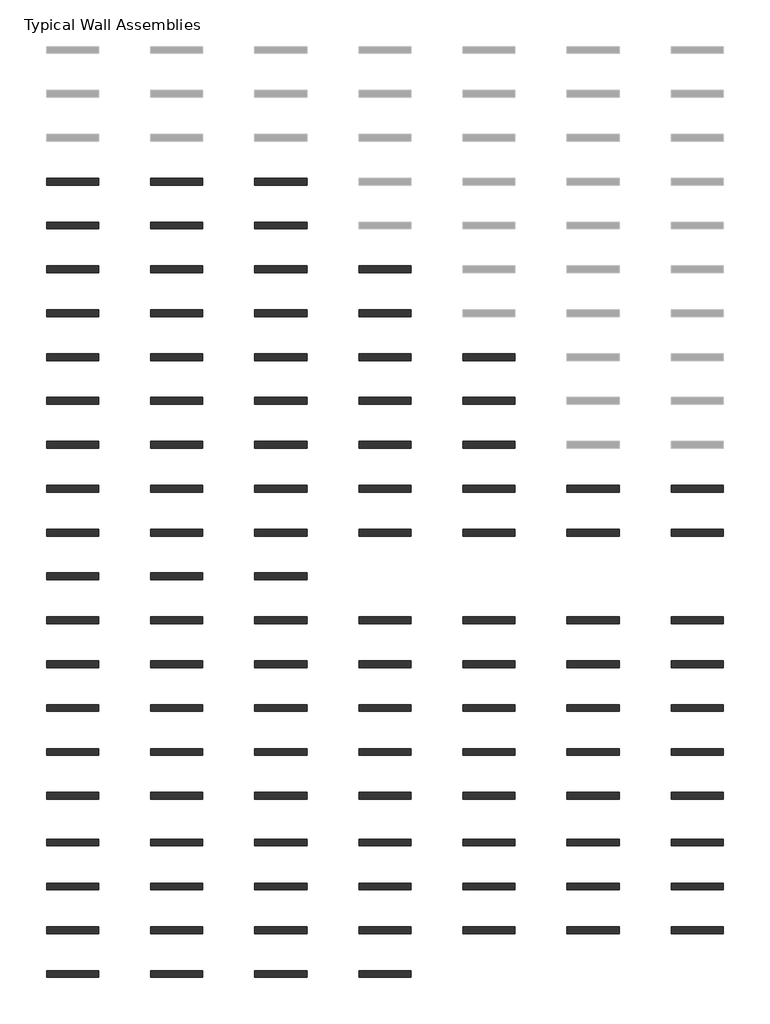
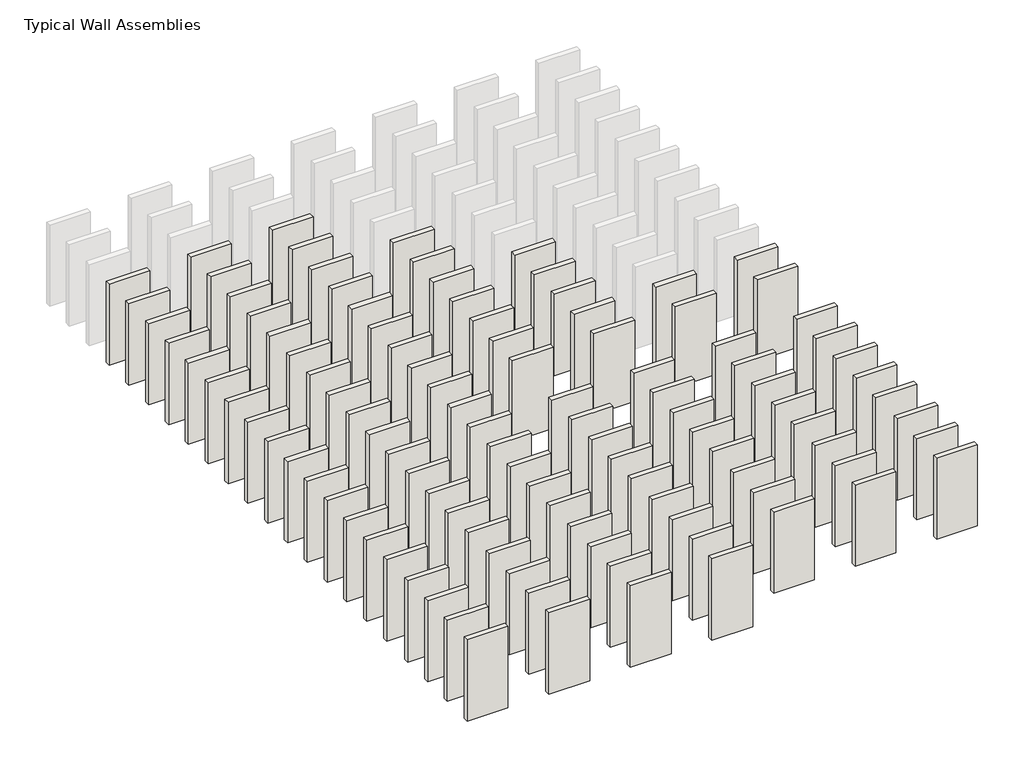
# One storey, part 1 of 2: 106 walls.
"""IFC4 building model written with IfcOpenShell, lengths in millimetres."""

import ifcopenshell
import ifcopenshell.guid

model = None  # the IFC model being written
_history = None  # IfcOwnerHistory: only IFC2X3 demands one
_inside = {}  # id of a spatial element -> (the spatial element, [elements in it])
_under = {}  # id of a project, library or spatial element -> (it, [spatial elements below it])
_declared = {}  # id of a project -> (the project, [libraries it declares])
_typed = {}  # id of a type object -> (the type object, [elements of that type])
_made_of = {}  # id of a material, layer set ... -> (it, [elements and type objects made of it])


def new_model(schema):
    """Start an empty IFC model of exactly this schema.

    Asked for "IFC4X3", IfcOpenShell would pick the latest addendum, in which some entities
    have other attributes; the version numbers below select the first issue.
    IFC2X3 requires an IfcOwnerHistory on every rooted entity: one is made here for all.
    """
    global model, _history
    if schema == "IFC4X3":
        model = ifcopenshell.file(schema_version=(4, 3, 0, 0))
    else:
        model = ifcopenshell.file(schema=schema)
    _inside.clear()
    _under.clear()
    _declared.clear()
    _typed.clear()
    _made_of.clear()
    _history = None
    if model.schema == "IFC2X3":
        org = make("IfcOrganization", Name="unknown")
        user = make(
            "IfcPersonAndOrganization",
            ThePerson=make("IfcPerson", FamilyName="unknown"),
            TheOrganization=org,
        )
        app = make(
            "IfcApplication",
            ApplicationDeveloper=org,
            Version="unknown",
            ApplicationFullName="unknown",
            ApplicationIdentifier="unknown",
        )
        _history = make(
            "IfcOwnerHistory",
            OwningUser=user,
            OwningApplication=app,
            ChangeAction="ADDED",
            CreationDate=0,
        )
    return model


def make(cls, **values):
    """One entity of the class cls with the attributes given. An attribute that is None is left unset."""
    return model.create_entity(
        cls, **{name: value for name, value in values.items() if value is not None}
    )


def rooted(cls, **values):
    """An entity with a GlobalId (a new one), such as an element, a storey or a relation."""
    return make(cls, GlobalId=ifcopenshell.guid.new(), OwnerHistory=_history, **values)


def si_unit(unit_type, name, prefix=None):
    """IfcSIUnit, for example si_unit("LENGTHUNIT", "METRE", prefix="MILLI")."""
    return make("IfcSIUnit", UnitType=unit_type, Prefix=prefix, Name=name)


def assignment(units):
    """IfcUnitAssignment: the units of a project."""
    return None if units is None else make("IfcUnitAssignment", Units=units)


def point(xyz):
    """IfcCartesianPoint."""
    return None if xyz is None else make("IfcCartesianPoint", Coordinates=xyz)


def direction(xyz):
    """IfcDirection."""
    return None if xyz is None else make("IfcDirection", DirectionRatios=xyz)


def frame(location, z_axis=None, x_axis=None):
    """IfcAxis2Placement3D, a coordinate frame: its origin and axes. An axis left out is left unset."""
    return make(
        "IfcAxis2Placement3D",
        Location=point(location),
        Axis=direction(z_axis),
        RefDirection=direction(x_axis),
    )


def origin():
    """The frame at (0, 0, 0) with its axes left unset."""
    return frame((0.0, 0.0, 0.0))


def place(relative_to, where):
    """IfcLocalPlacement: puts the frame where relative to a parent placement (None: the world)."""
    return make(
        "IfcLocalPlacement", PlacementRelTo=relative_to, RelativePlacement=where
    )


def context(
    kind, dimensions, precision=None, world=None, true_north=None, identifier=None
):
    """IfcGeometricRepresentationContext, for example the 3D "Model" context."""
    return make(
        "IfcGeometricRepresentationContext",
        ContextIdentifier=identifier,
        ContextType=kind,
        CoordinateSpaceDimension=dimensions,
        Precision=precision,
        WorldCoordinateSystem=world,
        TrueNorth=true_north,
    )


def project(units=None, contexts=None):
    """IfcProject with its units and contexts."""
    return rooted(
        "IfcProject",
        Name="project",
        RepresentationContexts=contexts,
        UnitsInContext=assignment(units),
    )


def spatial(cls, under=None, at=None, **own):
    """A site, building, storey or space (cls), placed at a placement, below another one or the project."""
    s = rooted(cls, ObjectPlacement=at, **own)
    if under is not None:
        _under.setdefault(under.id(), (under, []))[1].append(s)
    return s


def polyline(points):
    """IfcPolyline through the points."""
    return make("IfcPolyline", Points=[point(p) for p in points])


def outline(outer, holes=None, kind="AREA"):
    """IfcArbitraryClosedProfileDef: a profile drawn as a closed curve; with holes, ...WithVoids."""
    if holes is None:
        return make("IfcArbitraryClosedProfileDef", ProfileType=kind, OuterCurve=outer)
    return make(
        "IfcArbitraryProfileDefWithVoids",
        ProfileType=kind,
        OuterCurve=outer,
        InnerCurves=holes,
    )


def extrude(swept, where, along, depth):
    """IfcExtrudedAreaSolid: the profile swept, set in the frame where, extruded along a direction by depth."""
    return make(
        "IfcExtrudedAreaSolid",
        SweptArea=swept,
        Position=where,
        ExtrudedDirection=direction(along),
        Depth=depth,
    )


def shape(context_of_items, identifier, shape_type, items):
    """IfcShapeRepresentation: the items that make up one representation, for example the "Body"."""
    return make(
        "IfcShapeRepresentation",
        ContextOfItems=context_of_items,
        RepresentationIdentifier=identifier,
        RepresentationType=shape_type,
        Items=items,
    )


def made_of(thing, what):
    """Note that an element or type object is made of a material, layer set ...; save() writes the relation."""
    if what is not None:
        _made_of.setdefault(what.id(), (what, []))[1].append(thing)
    return thing


def element(
    cls,
    number,
    at=None,
    inside=None,
    cuts=None,
    type_object=None,
    material=None,
    context=None,
    identifier="Body",
    shape_type=None,
    held_by="IfcProductDefinitionShape",
    body=None,
    shapes=None,
    **own,
):
    """One element of the class cls, such as IfcWall. Its Tag is "e" and its number.

    at: its placement. inside: the storey or other place that contains it. cuts: it is an
    opening in that element (IfcRelVoidsElement). A single representation is given by context,
    identifier, shape_type and body (its items); several are given by shapes. held_by: the class
    of the entity that holds the representations. save() writes the other relations.
    """
    e = rooted(cls, Tag="e%d" % number, ObjectPlacement=at, **own)
    if body is not None:
        shapes = [shape(context, identifier, shape_type, body)]
    if shapes is not None:
        e.Representation = make(held_by, Representations=shapes)
    if inside is not None:
        _inside.setdefault(inside.id(), (inside, []))[1].append(e)
    if cuts is not None:
        rooted(
            "IfcRelVoidsElement", RelatingBuildingElement=cuts, RelatedOpeningElement=e
        )
    if type_object is not None:
        _typed.setdefault(type_object.id(), (type_object, []))[1].append(e)
    return made_of(e, material)


def aggregate(whole, parts):
    """IfcRelAggregates: a whole, such as a stair, and the parts it consists of."""
    return rooted("IfcRelAggregates", RelatingObject=whole, RelatedObjects=parts)


def save(model, path):
    """Write the relations noted so far, then the file.

    IfcRelAggregates (storeys below a building ...), IfcRelContainedInSpatialStructure (elements
    in a storey), IfcRelDefinesByType, IfcRelAssociatesMaterial and IfcRelDeclares: one each for
    every whole, place, type object, material and project.
    """
    for whole, parts in _under.values():
        aggregate(whole, parts)
    for where, things in _inside.values():
        rooted(
            "IfcRelContainedInSpatialStructure",
            RelatedElements=things,
            RelatingStructure=where,
        )
    for kind, things in _typed.values():
        rooted("IfcRelDefinesByType", RelatedObjects=things, RelatingType=kind)
    for what, things in _made_of.values():
        rooted("IfcRelAssociatesMaterial", RelatedObjects=things, RelatingMaterial=what)
    for by, libraries in _declared.values():
        rooted("IfcRelDeclares", RelatingContext=by, RelatedDefinitions=libraries)
    model.write(path)


model = new_model("IFC4")

# Units and contexts
model_context = context("Model", 3, world=origin())
ifc_project = project(units=[si_unit("LENGTHUNIT", "METRE", prefix="MILLI")], contexts=[model_context])

# Site, building, storey
site = spatial("IfcSite", under=ifc_project)
building = spatial("IfcBuilding", under=site)
storey = spatial("IfcBuildingStorey", under=building, Name="Typical Wall Assemblies", Elevation=6096.0)

# Walls
placement = place(None, origin())
element("IfcWall", 1, ObjectType="Resysta - Cladding-3-Channel-Thin_3/4inx2.75in_Sage", at=placement, inside=storey, context=model_context, shape_type="SweptSolid", body=[
    extrude(outline(polyline([(-19450.9165719, -187.0230344), (-20898.7250935, -187.0230344), (-20898.7250935, 5.0644687), (-19450.9165719, 5.0644687), (-19450.9165719, -187.0230344)])), frame((0.0, 0.0, 6096.0), z_axis=(0.0, 0.0, 1.0), x_axis=(1.0, 0.0, 0.0)), (0.0, 0.0, 1.0), 3048.0),
])
element("IfcWall", 2, ObjectType="Resysta - Cladding-3-Channel-Thin_3/4inx2.75in_Siam", at=placement, inside=storey, context=model_context, shape_type="SweptSolid", body=[
    extrude(outline(polyline([(-16555.2995286, -187.0230344), (-18003.1080502, -187.0230344), (-18003.1080502, 5.0644687), (-16555.2995286, 5.0644687), (-16555.2995286, -187.0230344)])), frame((0.0, 0.0, 6096.0), z_axis=(0.0, 0.0, 1.0), x_axis=(1.0, 0.0, 0.0)), (0.0, 0.0, 1.0), 3048.0),
])
element("IfcWall", 3, ObjectType="Resysta - Cladding-3-Channel-Thin_3/4inx2.75in_Teracotta", at=placement, inside=storey, context=model_context, shape_type="SweptSolid", body=[
    extrude(outline(polyline([(-13659.6824853, -187.0230344), (-15107.4910069, -187.0230344), (-15107.4910069, 5.0644687), (-13659.6824853, 5.0644687), (-13659.6824853, -187.0230344)])), frame((0.0, 0.0, 6096.0), z_axis=(0.0, 0.0, 1.0), x_axis=(1.0, 0.0, 0.0)), (0.0, 0.0, 1.0), 3048.0),
])
element("IfcWall", 4, ObjectType="Resysta - Cladding-4-Channel-Thin_3/4inx5.5in_Anthrazit", at=placement, inside=storey, context=model_context, shape_type="SweptSolid", body=[
    extrude(outline(polyline([(-19450.9165719, -1406.2230344), (-20898.7250935, -1406.2230344), (-20898.7250935, -1214.1355313), (-19450.9165719, -1214.1355313), (-19450.9165719, -1406.2230344)])), frame((0.0, 0.0, 6096.0), z_axis=(0.0, 0.0, 1.0), x_axis=(1.0, 0.0, 0.0)), (0.0, 0.0, 1.0), 3048.0),
])
element("IfcWall", 5, ObjectType="Resysta - Cladding-4-Channel-Thin_3/4inx5.5in_Apple-Green", at=placement, inside=storey, context=model_context, shape_type="SweptSolid", body=[
    extrude(outline(polyline([(-16555.2995286, -1406.2230344), (-18003.1080502, -1406.2230344), (-18003.1080502, -1214.1355313), (-16555.2995286, -1214.1355313), (-16555.2995286, -1406.2230344)])), frame((0.0, 0.0, 6096.0), z_axis=(0.0, 0.0, 1.0), x_axis=(1.0, 0.0, 0.0)), (0.0, 0.0, 1.0), 3048.0),
])
element("IfcWall", 6, ObjectType="Resysta - Cladding-4-Channel-Thin_3/4inx5.5in_Black", at=placement, inside=storey, context=model_context, shape_type="SweptSolid", body=[
    extrude(outline(polyline([(-13659.6824853, -1406.2230344), (-15107.4910069, -1406.2230344), (-15107.4910069, -1214.1355313), (-13659.6824853, -1214.1355313), (-13659.6824853, -1406.2230344)])), frame((0.0, 0.0, 6096.0), z_axis=(0.0, 0.0, 1.0), x_axis=(1.0, 0.0, 0.0)), (0.0, 0.0, 1.0), 3048.0),
])
element("IfcWall", 7, ObjectType="Resysta - Cladding-4-Channel-Thin_3/4inx5.5in_Concrete-Grey", at=placement, inside=storey, context=model_context, shape_type="SweptSolid", body=[
    extrude(outline(polyline([(-19450.9165719, -2625.4230344), (-20898.7250935, -2625.4230344), (-20898.7250935, -2433.3355313), (-19450.9165719, -2433.3355313), (-19450.9165719, -2625.4230344)])), frame((0.0, 0.0, 6096.0), z_axis=(0.0, 0.0, 1.0), x_axis=(1.0, 0.0, 0.0)), (0.0, 0.0, 1.0), 3048.0),
])
element("IfcWall", 8, ObjectType="Resysta - Cladding-4-Channel-Thin_3/4inx5.5in_Dark-Burma", at=placement, inside=storey, context=model_context, shape_type="SweptSolid", body=[
    extrude(outline(polyline([(-16555.2995286, -2625.4230344), (-18003.1080502, -2625.4230344), (-18003.1080502, -2433.3355313), (-16555.2995286, -2433.3355313), (-16555.2995286, -2625.4230344)])), frame((0.0, 0.0, 6096.0), z_axis=(0.0, 0.0, 1.0), x_axis=(1.0, 0.0, 0.0)), (0.0, 0.0, 1.0), 3048.0),
])
element("IfcWall", 9, ObjectType="Resysta - Cladding-4-Channel-Thin_3/4inx5.5in_Dark-Grey", at=placement, inside=storey, context=model_context, shape_type="SweptSolid", body=[
    extrude(outline(polyline([(-13659.6824853, -2625.4230344), (-15107.4910069, -2625.4230344), (-15107.4910069, -2433.3355313), (-13659.6824853, -2433.3355313), (-13659.6824853, -2625.4230344)])), frame((0.0, 0.0, 6096.0), z_axis=(0.0, 0.0, 1.0), x_axis=(1.0, 0.0, 0.0)), (0.0, 0.0, 1.0), 3048.0),
])
element("IfcWall", 10, ObjectType="Resysta - Cladding-4-Channel-Thin_3/4inx5.5in_Dark-Siam", at=placement, inside=storey, context=model_context, shape_type="SweptSolid", body=[
    extrude(outline(polyline([(-10764.065442, -2625.4230344), (-12211.8739636, -2625.4230344), (-12211.8739636, -2433.3355313), (-10764.065442, -2433.3355313), (-10764.065442, -2625.4230344)])), frame((0.0, 0.0, 6096.0), z_axis=(0.0, 0.0, 1.0), x_axis=(1.0, 0.0, 0.0)), (0.0, 0.0, 1.0), 3048.0),
])
element("IfcWall", 11, ObjectType="Resysta - Cladding-4-Channel-Thin_3/4inx5.5in_Lavender", at=placement, inside=storey, context=model_context, shape_type="SweptSolid", body=[
    extrude(outline(polyline([(-19450.9165719, -3844.6230344), (-20898.7250935, -3844.6230344), (-20898.7250935, -3652.5355313), (-19450.9165719, -3652.5355313), (-19450.9165719, -3844.6230344)])), frame((0.0, 0.0, 6096.0), z_axis=(0.0, 0.0, 1.0), x_axis=(1.0, 0.0, 0.0)), (0.0, 0.0, 1.0), 3048.0),
])
element("IfcWall", 12, ObjectType="Resysta - Cladding-4-Channel-Thin_3/4inx5.5in_Light-Taupe", at=placement, inside=storey, context=model_context, shape_type="SweptSolid", body=[
    extrude(outline(polyline([(-16555.2995286, -3844.6230344), (-18003.1080502, -3844.6230344), (-18003.1080502, -3652.5355313), (-16555.2995286, -3652.5355313), (-16555.2995286, -3844.6230344)])), frame((0.0, 0.0, 6096.0), z_axis=(0.0, 0.0, 1.0), x_axis=(1.0, 0.0, 0.0)), (0.0, 0.0, 1.0), 3048.0),
])
element("IfcWall", 13, ObjectType="Resysta - Cladding-4-Channel-Thin_3/4inx5.5in_Mahogany", at=placement, inside=storey, context=model_context, shape_type="SweptSolid", body=[
    extrude(outline(polyline([(-13659.6824853, -3844.6230344), (-15107.4910069, -3844.6230344), (-15107.4910069, -3652.5355313), (-13659.6824853, -3652.5355313), (-13659.6824853, -3844.6230344)])), frame((0.0, 0.0, 6096.0), z_axis=(0.0, 0.0, 1.0), x_axis=(1.0, 0.0, 0.0)), (0.0, 0.0, 1.0), 3048.0),
])
element("IfcWall", 14, ObjectType="Resysta - Cladding-4-Channel-Thin_3/4inx5.5in_Moss-Green", at=placement, inside=storey, context=model_context, shape_type="SweptSolid", body=[
    extrude(outline(polyline([(-10764.065442, -3844.6230344), (-12211.8739636, -3844.6230344), (-12211.8739636, -3652.5355313), (-10764.065442, -3652.5355313), (-10764.065442, -3844.6230344)])), frame((0.0, 0.0, 6096.0), z_axis=(0.0, 0.0, 1.0), x_axis=(1.0, 0.0, 0.0)), (0.0, 0.0, 1.0), 3048.0),
])
element("IfcWall", 15, ObjectType="Resysta - Cladding-4-Channel-Thin_3/4inx5.5in_Red", at=placement, inside=storey, context=model_context, shape_type="SweptSolid", body=[
    extrude(outline(polyline([(-19450.9165719, -5063.8230344), (-20898.7250935, -5063.8230344), (-20898.7250935, -4871.7355313), (-19450.9165719, -4871.7355313), (-19450.9165719, -5063.8230344)])), frame((0.0, 0.0, 6096.0), z_axis=(0.0, 0.0, 1.0), x_axis=(1.0, 0.0, 0.0)), (0.0, 0.0, 1.0), 3048.0),
])
element("IfcWall", 16, ObjectType="Resysta - Cladding-4-Channel-Thin_3/4inx5.5in_Rust", at=placement, inside=storey, context=model_context, shape_type="SweptSolid", body=[
    extrude(outline(polyline([(-16555.2995286, -5063.8230344), (-18003.1080502, -5063.8230344), (-18003.1080502, -4871.7355313), (-16555.2995286, -4871.7355313), (-16555.2995286, -5063.8230344)])), frame((0.0, 0.0, 6096.0), z_axis=(0.0, 0.0, 1.0), x_axis=(1.0, 0.0, 0.0)), (0.0, 0.0, 1.0), 3048.0),
])
element("IfcWall", 17, ObjectType="Resysta - Cladding-4-Channel-Thin_3/4inx5.5in_Sage", at=placement, inside=storey, context=model_context, shape_type="SweptSolid", body=[
    extrude(outline(polyline([(-13659.6824853, -5063.8230344), (-15107.4910069, -5063.8230344), (-15107.4910069, -4871.7355313), (-13659.6824853, -4871.7355313), (-13659.6824853, -5063.8230344)])), frame((0.0, 0.0, 6096.0), z_axis=(0.0, 0.0, 1.0), x_axis=(1.0, 0.0, 0.0)), (0.0, 0.0, 1.0), 3048.0),
])
element("IfcWall", 18, ObjectType="Resysta - Cladding-4-Channel-Thin_3/4inx5.5in_Siam", at=placement, inside=storey, context=model_context, shape_type="SweptSolid", body=[
    extrude(outline(polyline([(-10764.065442, -5063.8230344), (-12211.8739636, -5063.8230344), (-12211.8739636, -4871.7355313), (-10764.065442, -4871.7355313), (-10764.065442, -5063.8230344)])), frame((0.0, 0.0, 6096.0), z_axis=(0.0, 0.0, 1.0), x_axis=(1.0, 0.0, 0.0)), (0.0, 0.0, 1.0), 3048.0),
])
element("IfcWall", 19, ObjectType="Resysta - Cladding-4-Channel-Thin_3/4inx5.5in_Teracotta", at=placement, inside=storey, context=model_context, shape_type="SweptSolid", body=[
    extrude(outline(polyline([(-7868.4483987, -5063.8230344), (-9316.2569203, -5063.8230344), (-9316.2569203, -4871.7355313), (-7868.4483987, -4871.7355313), (-7868.4483987, -5063.8230344)])), frame((0.0, 0.0, 6096.0), z_axis=(0.0, 0.0, 1.0), x_axis=(1.0, 0.0, 0.0)), (0.0, 0.0, 1.0), 3048.0),
])
element("IfcWall", 20, ObjectType="Resysta - Cladding-4-Channel-Thin_3/4inx5.5in_Yellow-Teak", at=placement, inside=storey, context=model_context, shape_type="SweptSolid", body=[
    extrude(outline(polyline([(-19450.9165719, -6283.0230344), (-20898.7250935, -6283.0230344), (-20898.7250935, -6090.9355313), (-19450.9165719, -6090.9355313), (-19450.9165719, -6283.0230344)])), frame((0.0, 0.0, 6096.0), z_axis=(0.0, 0.0, 1.0), x_axis=(1.0, 0.0, 0.0)), (0.0, 0.0, 1.0), 3048.0),
])
element("IfcWall", 21, ObjectType="Resysta - Cladding-4-Channel-Thin_3/4inx7.75in_Aged-Teak", at=placement, inside=storey, context=model_context, shape_type="SweptSolid", body=[
    extrude(outline(polyline([(-16555.2995286, -6283.0230344), (-18003.1080502, -6283.0230344), (-18003.1080502, -6090.9355313), (-16555.2995286, -6090.9355313), (-16555.2995286, -6283.0230344)])), frame((0.0, 0.0, 6096.0), z_axis=(0.0, 0.0, 1.0), x_axis=(1.0, 0.0, 0.0)), (0.0, 0.0, 1.0), 3048.0),
])
element("IfcWall", 22, ObjectType="Resysta - Cladding-4-Channel-Thin_3/4inx7.75in_Anthrazit", at=placement, inside=storey, context=model_context, shape_type="SweptSolid", body=[
    extrude(outline(polyline([(-13659.6824853, -6283.0230344), (-15107.4910069, -6283.0230344), (-15107.4910069, -6090.9355313), (-13659.6824853, -6090.9355313), (-13659.6824853, -6283.0230344)])), frame((0.0, 0.0, 6096.0), z_axis=(0.0, 0.0, 1.0), x_axis=(1.0, 0.0, 0.0)), (0.0, 0.0, 1.0), 3048.0),
])
element("IfcWall", 23, ObjectType="Resysta - Cladding-4-Channel-Thin_3/4inx7.75in_Apple-Green", at=placement, inside=storey, context=model_context, shape_type="SweptSolid", body=[
    extrude(outline(polyline([(-10764.065442, -6283.0230344), (-12211.8739636, -6283.0230344), (-12211.8739636, -6090.9355313), (-10764.065442, -6090.9355313), (-10764.065442, -6283.0230344)])), frame((0.0, 0.0, 6096.0), z_axis=(0.0, 0.0, 1.0), x_axis=(1.0, 0.0, 0.0)), (0.0, 0.0, 1.0), 3048.0),
])
element("IfcWall", 24, ObjectType="Resysta - Cladding-4-Channel-Thin_3/4inx7.75in_Black", at=placement, inside=storey, context=model_context, shape_type="SweptSolid", body=[
    extrude(outline(polyline([(-7868.4483987, -6283.0230344), (-9316.2569203, -6283.0230344), (-9316.2569203, -6090.9355313), (-7868.4483987, -6090.9355313), (-7868.4483987, -6283.0230344)])), frame((0.0, 0.0, 6096.0), z_axis=(0.0, 0.0, 1.0), x_axis=(1.0, 0.0, 0.0)), (0.0, 0.0, 1.0), 3048.0),
])
element("IfcWall", 25, ObjectType="Resysta - Cladding-4-Channel-Thin_3/4inx7.75in_Burma", at=placement, inside=storey, context=model_context, shape_type="SweptSolid", body=[
    extrude(outline(polyline([(-19450.9165719, -7502.2230344), (-20898.7250935, -7502.2230344), (-20898.7250935, -7310.1355313), (-19450.9165719, -7310.1355313), (-19450.9165719, -7502.2230344)])), frame((0.0, 0.0, 6096.0), z_axis=(0.0, 0.0, 1.0), x_axis=(1.0, 0.0, 0.0)), (0.0, 0.0, 1.0), 3048.0),
])
element("IfcWall", 26, ObjectType="Resysta - Cladding-4-Channel-Thin_3/4inx7.75in_Cape-Cod", at=placement, inside=storey, context=model_context, shape_type="SweptSolid", body=[
    extrude(outline(polyline([(-16555.2995286, -7502.2230344), (-18003.1080502, -7502.2230344), (-18003.1080502, -7310.1355313), (-16555.2995286, -7310.1355313), (-16555.2995286, -7502.2230344)])), frame((0.0, 0.0, 6096.0), z_axis=(0.0, 0.0, 1.0), x_axis=(1.0, 0.0, 0.0)), (0.0, 0.0, 1.0), 3048.0),
])
element("IfcWall", 27, ObjectType="Resysta - Cladding-4-Channel-Thin_3/4inx7.75in_Concrete-Grey", at=placement, inside=storey, context=model_context, shape_type="SweptSolid", body=[
    extrude(outline(polyline([(-13659.6824853, -7502.2230344), (-15107.4910069, -7502.2230344), (-15107.4910069, -7310.1355313), (-13659.6824853, -7310.1355313), (-13659.6824853, -7502.2230344)])), frame((0.0, 0.0, 6096.0), z_axis=(0.0, 0.0, 1.0), x_axis=(1.0, 0.0, 0.0)), (0.0, 0.0, 1.0), 3048.0),
])
element("IfcWall", 28, ObjectType="Resysta - Cladding-4-Channel-Thin_3/4inx7.75in_Dark-Burma", at=placement, inside=storey, context=model_context, shape_type="SweptSolid", body=[
    extrude(outline(polyline([(-10764.065442, -7502.2230344), (-12211.8739636, -7502.2230344), (-12211.8739636, -7310.1355313), (-10764.065442, -7310.1355313), (-10764.065442, -7502.2230344)])), frame((0.0, 0.0, 6096.0), z_axis=(0.0, 0.0, 1.0), x_axis=(1.0, 0.0, 0.0)), (0.0, 0.0, 1.0), 3048.0),
])
element("IfcWall", 29, ObjectType="Resysta - Cladding-4-Channel-Thin_3/4inx7.75in_Dark-Grey", at=placement, inside=storey, context=model_context, shape_type="SweptSolid", body=[
    extrude(outline(polyline([(-7868.4483987, -7502.2230344), (-9316.2569203, -7502.2230344), (-9316.2569203, -7310.1355313), (-7868.4483987, -7310.1355313), (-7868.4483987, -7502.2230344)])), frame((0.0, 0.0, 6096.0), z_axis=(0.0, 0.0, 1.0), x_axis=(1.0, 0.0, 0.0)), (0.0, 0.0, 1.0), 3048.0),
])
element("IfcWall", 30, ObjectType="Resysta - Cladding-4-Channel-Thin_3/4inx7.75in_Green/Blue", at=placement, inside=storey, context=model_context, shape_type="SweptSolid", body=[
    extrude(outline(polyline([(-19450.9165719, -8721.4230344), (-20898.7250935, -8721.4230344), (-20898.7250935, -8529.3355313), (-19450.9165719, -8529.3355313), (-19450.9165719, -8721.4230344)])), frame((0.0, 0.0, 6096.0), z_axis=(0.0, 0.0, 1.0), x_axis=(1.0, 0.0, 0.0)), (0.0, 0.0, 1.0), 3048.0),
])
element("IfcWall", 31, ObjectType="Resysta - Cladding-4-Channel-Thin_3/4inx7.75in_Java-Teak", at=placement, inside=storey, context=model_context, shape_type="SweptSolid", body=[
    extrude(outline(polyline([(-16555.2995286, -8721.4230344), (-18003.1080502, -8721.4230344), (-18003.1080502, -8529.3355313), (-16555.2995286, -8529.3355313), (-16555.2995286, -8721.4230344)])), frame((0.0, 0.0, 6096.0), z_axis=(0.0, 0.0, 1.0), x_axis=(1.0, 0.0, 0.0)), (0.0, 0.0, 1.0), 3048.0),
])
element("IfcWall", 32, ObjectType="Resysta - Cladding-4-Channel-Thin_3/4inx7.75in_Lavender", at=placement, inside=storey, context=model_context, shape_type="SweptSolid", body=[
    extrude(outline(polyline([(-13659.6824853, -8721.4230344), (-15107.4910069, -8721.4230344), (-15107.4910069, -8529.3355313), (-13659.6824853, -8529.3355313), (-13659.6824853, -8721.4230344)])), frame((0.0, 0.0, 6096.0), z_axis=(0.0, 0.0, 1.0), x_axis=(1.0, 0.0, 0.0)), (0.0, 0.0, 1.0), 3048.0),
])
element("IfcWall", 33, ObjectType="Resysta - Cladding-4-Channel-Thin_3/4inx7.75in_Light-Taupe", at=placement, inside=storey, context=model_context, shape_type="SweptSolid", body=[
    extrude(outline(polyline([(-10764.065442, -8721.4230344), (-12211.8739636, -8721.4230344), (-12211.8739636, -8529.3355313), (-10764.065442, -8529.3355313), (-10764.065442, -8721.4230344)])), frame((0.0, 0.0, 6096.0), z_axis=(0.0, 0.0, 1.0), x_axis=(1.0, 0.0, 0.0)), (0.0, 0.0, 1.0), 3048.0),
])
element("IfcWall", 34, ObjectType="Resysta - Cladding-4-Channel-Thin_3/4inx7.75in_Mahogany", at=placement, inside=storey, context=model_context, shape_type="SweptSolid", body=[
    extrude(outline(polyline([(-7868.4483987, -8721.4230344), (-9316.2569203, -8721.4230344), (-9316.2569203, -8529.3355313), (-7868.4483987, -8529.3355313), (-7868.4483987, -8721.4230344)])), frame((0.0, 0.0, 6096.0), z_axis=(0.0, 0.0, 1.0), x_axis=(1.0, 0.0, 0.0)), (0.0, 0.0, 1.0), 3048.0),
])
element("IfcWall", 35, ObjectType="Resysta - Cladding-4-Channel-Thin_3/4inx7.75in_Moss-Green", at=placement, inside=storey, context=model_context, shape_type="SweptSolid", body=[
    extrude(outline(polyline([(-4972.8313554, -8721.4230344), (-6420.639877, -8721.4230344), (-6420.639877, -8529.3355313), (-4972.8313554, -8529.3355313), (-4972.8313554, -8721.4230344)])), frame((0.0, 0.0, 6096.0), z_axis=(0.0, 0.0, 1.0), x_axis=(1.0, 0.0, 0.0)), (0.0, 0.0, 1.0), 3048.0),
])
element("IfcWall", 36, ObjectType="Resysta - Cladding-4-Channel-Thin_3/4inx7.75in_Mustard-Green", at=placement, inside=storey, context=model_context, shape_type="SweptSolid", body=[
    extrude(outline(polyline([(-2077.2143121, -8721.4230344), (-3525.0228337, -8721.4230344), (-3525.0228337, -8529.3355313), (-2077.2143121, -8529.3355313), (-2077.2143121, -8721.4230344)])), frame((0.0, 0.0, 6096.0), z_axis=(0.0, 0.0, 1.0), x_axis=(1.0, 0.0, 0.0)), (0.0, 0.0, 1.0), 3048.0),
])
element("IfcWall", 37, ObjectType="Resysta - Cladding-4-Channel-Thin_3/4inx7.75in_Pale-Golden", at=placement, inside=storey, context=model_context, shape_type="SweptSolid", body=[
    extrude(outline(polyline([(-19450.9165719, -9940.6230344), (-20898.7250935, -9940.6230344), (-20898.7250935, -9748.5355313), (-19450.9165719, -9748.5355313), (-19450.9165719, -9940.6230344)])), frame((0.0, 0.0, 6096.0), z_axis=(0.0, 0.0, 1.0), x_axis=(1.0, 0.0, 0.0)), (0.0, 0.0, 1.0), 3048.0),
])
element("IfcWall", 38, ObjectType="Resysta - Cladding-4-Channel-Thin_3/4inx7.75in_Palisander", at=placement, inside=storey, context=model_context, shape_type="SweptSolid", body=[
    extrude(outline(polyline([(-16555.2995286, -9940.6230344), (-18003.1080502, -9940.6230344), (-18003.1080502, -9748.5355313), (-16555.2995286, -9748.5355313), (-16555.2995286, -9940.6230344)])), frame((0.0, 0.0, 6096.0), z_axis=(0.0, 0.0, 1.0), x_axis=(1.0, 0.0, 0.0)), (0.0, 0.0, 1.0), 3048.0),
])
element("IfcWall", 39, ObjectType="Resysta - Cladding-4-Channel-Thin_3/4inx7.75in_Red", at=placement, inside=storey, context=model_context, shape_type="SweptSolid", body=[
    extrude(outline(polyline([(-13659.6824853, -9940.6230344), (-15107.4910069, -9940.6230344), (-15107.4910069, -9748.5355313), (-13659.6824853, -9748.5355313), (-13659.6824853, -9940.6230344)])), frame((0.0, 0.0, 6096.0), z_axis=(0.0, 0.0, 1.0), x_axis=(1.0, 0.0, 0.0)), (0.0, 0.0, 1.0), 3048.0),
])
element("IfcWall", 40, ObjectType="Resysta - Cladding-4-Channel-Thin_3/4inx7.75in_Rust", at=placement, inside=storey, context=model_context, shape_type="SweptSolid", body=[
    extrude(outline(polyline([(-10764.065442, -9940.6230344), (-12211.8739636, -9940.6230344), (-12211.8739636, -9748.5355313), (-10764.065442, -9748.5355313), (-10764.065442, -9940.6230344)])), frame((0.0, 0.0, 6096.0), z_axis=(0.0, 0.0, 1.0), x_axis=(1.0, 0.0, 0.0)), (0.0, 0.0, 1.0), 3048.0),
])
element("IfcWall", 41, ObjectType="Resysta - Cladding-4-Channel-Thin_3/4inx7.75in_Sage", at=placement, inside=storey, context=model_context, shape_type="SweptSolid", body=[
    extrude(outline(polyline([(-7868.4483987, -9940.6230344), (-9316.2569203, -9940.6230344), (-9316.2569203, -9748.5355313), (-7868.4483987, -9748.5355313), (-7868.4483987, -9940.6230344)])), frame((0.0, 0.0, 6096.0), z_axis=(0.0, 0.0, 1.0), x_axis=(1.0, 0.0, 0.0)), (0.0, 0.0, 1.0), 3048.0),
])
element("IfcWall", 42, ObjectType="Resysta - Cladding-4-Channel-Thin_3/4inx7.75in_Siam", at=placement, inside=storey, context=model_context, shape_type="SweptSolid", body=[
    extrude(outline(polyline([(-4972.8313554, -9940.6230344), (-6420.639877, -9940.6230344), (-6420.639877, -9748.5355313), (-4972.8313554, -9748.5355313), (-4972.8313554, -9940.6230344)])), frame((0.0, 0.0, 6096.0), z_axis=(0.0, 0.0, 1.0), x_axis=(1.0, 0.0, 0.0)), (0.0, 0.0, 1.0), 3048.0),
])
element("IfcWall", 43, ObjectType="Resysta - Cladding-4-Channel-Thin_3/4inx7.75in_Teracotta", at=placement, inside=storey, context=model_context, shape_type="SweptSolid", body=[
    extrude(outline(polyline([(-2077.2143121, -9940.6230344), (-3525.0228337, -9940.6230344), (-3525.0228337, -9748.5355313), (-2077.2143121, -9748.5355313), (-2077.2143121, -9940.6230344)])), frame((0.0, 0.0, 6096.0), z_axis=(0.0, 0.0, 1.0), x_axis=(1.0, 0.0, 0.0)), (0.0, 0.0, 1.0), 3048.0),
])
element("IfcWall", 44, ObjectType="Resysta - Cladding-4-Channel-Thin_3/4inx7.75in_Walnut", at=placement, inside=storey, context=model_context, shape_type="SweptSolid", body=[
    extrude(outline(polyline([(-19450.9165719, -11159.8230344), (-20898.7250935, -11159.8230344), (-20898.7250935, -10967.7355313), (-19450.9165719, -10967.7355313), (-19450.9165719, -11159.8230344)])), frame((0.0, 0.0, 6096.0), z_axis=(0.0, 0.0, 1.0), x_axis=(1.0, 0.0, 0.0)), (0.0, 0.0, 1.0), 3048.0),
])
element("IfcWall", 45, ObjectType="Resysta - Cladding-4-Channel-Thin_3/4inx7.75in_White", at=placement, inside=storey, context=model_context, shape_type="SweptSolid", body=[
    extrude(outline(polyline([(-16555.2995286, -11159.8230344), (-18003.1080502, -11159.8230344), (-18003.1080502, -10967.7355313), (-16555.2995286, -10967.7355313), (-16555.2995286, -11159.8230344)])), frame((0.0, 0.0, 6096.0), z_axis=(0.0, 0.0, 1.0), x_axis=(1.0, 0.0, 0.0)), (0.0, 0.0, 1.0), 3048.0),
])
element("IfcWall", 46, ObjectType="Resysta - Cladding-4-Channel-Thin_3/4inx7.75in_Yellow-Teak", at=placement, inside=storey, context=model_context, shape_type="SweptSolid", body=[
    extrude(outline(polyline([(-13659.6824853, -11159.8230344), (-15107.4910069, -11159.8230344), (-15107.4910069, -10967.7355313), (-13659.6824853, -10967.7355313), (-13659.6824853, -11159.8230344)])), frame((0.0, 0.0, 6096.0), z_axis=(0.0, 0.0, 1.0), x_axis=(1.0, 0.0, 0.0)), (0.0, 0.0, 1.0), 3048.0),
])
element("IfcWall", 47, ObjectType="Resysta - Siding_1/2inx4in_Aged-Teak", at=placement, inside=storey, context=model_context, shape_type="SweptSolid", body=[
    extrude(outline(polyline([(-19450.9165719, -12375.8480346), (-20898.7250935, -12375.8480346), (-20898.7250935, -12190.1105311), (-19450.9165719, -12190.1105311), (-19450.9165719, -12375.8480346)])), frame((0.0, 0.0, 6096.0), z_axis=(0.0, 0.0, 1.0), x_axis=(1.0, 0.0, 0.0)), (0.0, 0.0, 1.0), 3048.0),
])
element("IfcWall", 48, ObjectType="Resysta - Siding_1/2inx4in_Anthrazit", at=placement, inside=storey, context=model_context, shape_type="SweptSolid", body=[
    extrude(outline(polyline([(-16555.2995286, -12375.8480346), (-18003.1080502, -12375.8480346), (-18003.1080502, -12190.1105311), (-16555.2995286, -12190.1105311), (-16555.2995286, -12375.8480346)])), frame((0.0, 0.0, 6096.0), z_axis=(0.0, 0.0, 1.0), x_axis=(1.0, 0.0, 0.0)), (0.0, 0.0, 1.0), 3048.0),
])
element("IfcWall", 49, ObjectType="Resysta - Siding_1/2inx4in_Apple-Green", at=placement, inside=storey, context=model_context, shape_type="SweptSolid", body=[
    extrude(outline(polyline([(-13659.6824853, -12375.8480346), (-15107.4910069, -12375.8480346), (-15107.4910069, -12190.1105311), (-13659.6824853, -12190.1105311), (-13659.6824853, -12375.8480346)])), frame((0.0, 0.0, 6096.0), z_axis=(0.0, 0.0, 1.0), x_axis=(1.0, 0.0, 0.0)), (0.0, 0.0, 1.0), 3048.0),
])
element("IfcWall", 50, ObjectType="Resysta - Siding_1/2inx4in_Black", at=placement, inside=storey, context=model_context, shape_type="SweptSolid", body=[
    extrude(outline(polyline([(-10764.065442, -12375.8480346), (-12211.8739636, -12375.8480346), (-12211.8739636, -12190.1105311), (-10764.065442, -12190.1105311), (-10764.065442, -12375.8480346)])), frame((0.0, 0.0, 6096.0), z_axis=(0.0, 0.0, 1.0), x_axis=(1.0, 0.0, 0.0)), (0.0, 0.0, 1.0), 3048.0),
])
element("IfcWall", 51, ObjectType="Resysta - Siding_1/2inx4in_Blue", at=placement, inside=storey, context=model_context, shape_type="SweptSolid", body=[
    extrude(outline(polyline([(-7868.4483987, -12375.8480346), (-9316.2569203, -12375.8480346), (-9316.2569203, -12190.1105311), (-7868.4483987, -12190.1105311), (-7868.4483987, -12375.8480346)])), frame((0.0, 0.0, 6096.0), z_axis=(0.0, 0.0, 1.0), x_axis=(1.0, 0.0, 0.0)), (0.0, 0.0, 1.0), 3048.0),
])
element("IfcWall", 52, ObjectType="Resysta - Siding_1/2inx4in_Bright-Red", at=placement, inside=storey, context=model_context, shape_type="SweptSolid", body=[
    extrude(outline(polyline([(-4972.8313554, -12375.8480346), (-6420.639877, -12375.8480346), (-6420.639877, -12190.1105311), (-4972.8313554, -12190.1105311), (-4972.8313554, -12375.8480346)])), frame((0.0, 0.0, 6096.0), z_axis=(0.0, 0.0, 1.0), x_axis=(1.0, 0.0, 0.0)), (0.0, 0.0, 1.0), 3048.0),
])
element("IfcWall", 53, ObjectType="Resysta - Siding_1/2inx4in_Burma", at=placement, inside=storey, context=model_context, shape_type="SweptSolid", body=[
    extrude(outline(polyline([(-2077.2143121, -12375.8480346), (-3525.0228337, -12375.8480346), (-3525.0228337, -12190.1105311), (-2077.2143121, -12190.1105311), (-2077.2143121, -12375.8480346)])), frame((0.0, 0.0, 6096.0), z_axis=(0.0, 0.0, 1.0), x_axis=(1.0, 0.0, 0.0)), (0.0, 0.0, 1.0), 3048.0),
])
element("IfcWall", 54, ObjectType="Resysta - Siding_1/2inx4in_Cape-Cod", at=placement, inside=storey, context=model_context, shape_type="SweptSolid", body=[
    extrude(outline(polyline([(-19450.9165719, -13595.0480346), (-20898.7250935, -13595.0480346), (-20898.7250935, -13409.3105311), (-19450.9165719, -13409.3105311), (-19450.9165719, -13595.0480346)])), frame((0.0, 0.0, 6096.0), z_axis=(0.0, 0.0, 1.0), x_axis=(1.0, 0.0, 0.0)), (0.0, 0.0, 1.0), 3048.0),
])
element("IfcWall", 55, ObjectType="Resysta - Siding_1/2inx4in_Concrete-Grey", at=placement, inside=storey, context=model_context, shape_type="SweptSolid", body=[
    extrude(outline(polyline([(-16555.2995286, -13595.0480346), (-18003.1080502, -13595.0480346), (-18003.1080502, -13409.3105311), (-16555.2995286, -13409.3105311), (-16555.2995286, -13595.0480346)])), frame((0.0, 0.0, 6096.0), z_axis=(0.0, 0.0, 1.0), x_axis=(1.0, 0.0, 0.0)), (0.0, 0.0, 1.0), 3048.0),
])
element("IfcWall", 56, ObjectType="Resysta - Siding_1/2inx4in_Dark-Burma", at=placement, inside=storey, context=model_context, shape_type="SweptSolid", body=[
    extrude(outline(polyline([(-13659.6824853, -13595.0480346), (-15107.4910069, -13595.0480346), (-15107.4910069, -13409.3105311), (-13659.6824853, -13409.3105311), (-13659.6824853, -13595.0480346)])), frame((0.0, 0.0, 6096.0), z_axis=(0.0, 0.0, 1.0), x_axis=(1.0, 0.0, 0.0)), (0.0, 0.0, 1.0), 3048.0),
])
element("IfcWall", 57, ObjectType="Resysta - Siding_1/2inx4in_Dark-Grey", at=placement, inside=storey, context=model_context, shape_type="SweptSolid", body=[
    extrude(outline(polyline([(-10764.065442, -13595.0480346), (-12211.8739636, -13595.0480346), (-12211.8739636, -13409.3105311), (-10764.065442, -13409.3105311), (-10764.065442, -13595.0480346)])), frame((0.0, 0.0, 6096.0), z_axis=(0.0, 0.0, 1.0), x_axis=(1.0, 0.0, 0.0)), (0.0, 0.0, 1.0), 3048.0),
])
element("IfcWall", 58, ObjectType="Resysta - Siding_1/2inx4in_Dark-Siam", at=placement, inside=storey, context=model_context, shape_type="SweptSolid", body=[
    extrude(outline(polyline([(-7868.4483987, -13595.0480346), (-9316.2569203, -13595.0480346), (-9316.2569203, -13409.3105311), (-7868.4483987, -13409.3105311), (-7868.4483987, -13595.0480346)])), frame((0.0, 0.0, 6096.0), z_axis=(0.0, 0.0, 1.0), x_axis=(1.0, 0.0, 0.0)), (0.0, 0.0, 1.0), 3048.0),
])
element("IfcWall", 59, ObjectType="Resysta - Siding_1/2inx4in_Dark-Taupe", at=placement, inside=storey, context=model_context, shape_type="SweptSolid", body=[
    extrude(outline(polyline([(-4972.8313554, -13595.0480346), (-6420.639877, -13595.0480346), (-6420.639877, -13409.3105311), (-4972.8313554, -13409.3105311), (-4972.8313554, -13595.0480346)])), frame((0.0, 0.0, 6096.0), z_axis=(0.0, 0.0, 1.0), x_axis=(1.0, 0.0, 0.0)), (0.0, 0.0, 1.0), 3048.0),
])
element("IfcWall", 60, ObjectType="Resysta - Siding_1/2inx4in_Green/Blue", at=placement, inside=storey, context=model_context, shape_type="SweptSolid", body=[
    extrude(outline(polyline([(-2077.2143121, -13595.0480346), (-3525.0228337, -13595.0480346), (-3525.0228337, -13409.3105311), (-2077.2143121, -13409.3105311), (-2077.2143121, -13595.0480346)])), frame((0.0, 0.0, 6096.0), z_axis=(0.0, 0.0, 1.0), x_axis=(1.0, 0.0, 0.0)), (0.0, 0.0, 1.0), 3048.0),
])
element("IfcWall", 61, ObjectType="Resysta - Siding_1/2inx4in_Java-Teak", at=placement, inside=storey, context=model_context, shape_type="SweptSolid", body=[
    extrude(outline(polyline([(-19450.9165719, -14814.2480346), (-20898.7250935, -14814.2480346), (-20898.7250935, -14628.5105311), (-19450.9165719, -14628.5105311), (-19450.9165719, -14814.2480346)])), frame((0.0, 0.0, 6096.0), z_axis=(0.0, 0.0, 1.0), x_axis=(1.0, 0.0, 0.0)), (0.0, 0.0, 1.0), 3048.0),
])
element("IfcWall", 62, ObjectType="Resysta - Siding_1/2inx4in_Lavender", at=placement, inside=storey, context=model_context, shape_type="SweptSolid", body=[
    extrude(outline(polyline([(-16555.2995286, -14814.2480346), (-18003.1080502, -14814.2480346), (-18003.1080502, -14628.5105311), (-16555.2995286, -14628.5105311), (-16555.2995286, -14814.2480346)])), frame((0.0, 0.0, 6096.0), z_axis=(0.0, 0.0, 1.0), x_axis=(1.0, 0.0, 0.0)), (0.0, 0.0, 1.0), 3048.0),
])
element("IfcWall", 63, ObjectType="Resysta - Siding_1/2inx4in_Light-Taupe", at=placement, inside=storey, context=model_context, shape_type="SweptSolid", body=[
    extrude(outline(polyline([(-13659.6824853, -14814.2480346), (-15107.4910069, -14814.2480346), (-15107.4910069, -14628.5105311), (-13659.6824853, -14628.5105311), (-13659.6824853, -14814.2480346)])), frame((0.0, 0.0, 6096.0), z_axis=(0.0, 0.0, 1.0), x_axis=(1.0, 0.0, 0.0)), (0.0, 0.0, 1.0), 3048.0),
])
element("IfcWall", 64, ObjectType="Resysta - Siding_1/2inx4in_Mahogany", at=placement, inside=storey, context=model_context, shape_type="SweptSolid", body=[
    extrude(outline(polyline([(-10764.065442, -14814.2480346), (-12211.8739636, -14814.2480346), (-12211.8739636, -14628.5105311), (-10764.065442, -14628.5105311), (-10764.065442, -14814.2480346)])), frame((0.0, 0.0, 6096.0), z_axis=(0.0, 0.0, 1.0), x_axis=(1.0, 0.0, 0.0)), (0.0, 0.0, 1.0), 3048.0),
])
element("IfcWall", 65, ObjectType="Resysta - Siding_1/2inx4in_Moss-Green", at=placement, inside=storey, context=model_context, shape_type="SweptSolid", body=[
    extrude(outline(polyline([(-7868.4483987, -14814.2480346), (-9316.2569203, -14814.2480346), (-9316.2569203, -14628.5105311), (-7868.4483987, -14628.5105311), (-7868.4483987, -14814.2480346)])), frame((0.0, 0.0, 6096.0), z_axis=(0.0, 0.0, 1.0), x_axis=(1.0, 0.0, 0.0)), (0.0, 0.0, 1.0), 3048.0),
])
element("IfcWall", 66, ObjectType="Resysta - Siding_1/2inx4in_Mustard-Green", at=placement, inside=storey, context=model_context, shape_type="SweptSolid", body=[
    extrude(outline(polyline([(-4972.8313554, -14814.2480346), (-6420.639877, -14814.2480346), (-6420.639877, -14628.5105311), (-4972.8313554, -14628.5105311), (-4972.8313554, -14814.2480346)])), frame((0.0, 0.0, 6096.0), z_axis=(0.0, 0.0, 1.0), x_axis=(1.0, 0.0, 0.0)), (0.0, 0.0, 1.0), 3048.0),
])
element("IfcWall", 67, ObjectType="Resysta - Siding_1/2inx4in_Pale-Golden", at=placement, inside=storey, context=model_context, shape_type="SweptSolid", body=[
    extrude(outline(polyline([(-2077.2143121, -14814.2480346), (-3525.0228337, -14814.2480346), (-3525.0228337, -14628.5105311), (-2077.2143121, -14628.5105311), (-2077.2143121, -14814.2480346)])), frame((0.0, 0.0, 6096.0), z_axis=(0.0, 0.0, 1.0), x_axis=(1.0, 0.0, 0.0)), (0.0, 0.0, 1.0), 3048.0),
])
element("IfcWall", 68, ObjectType="Resysta - Siding_1/2inx4in_Palisander", at=placement, inside=storey, context=model_context, shape_type="SweptSolid", body=[
    extrude(outline(polyline([(-19450.9165719, -16033.4480346), (-20898.7250935, -16033.4480346), (-20898.7250935, -15847.7105311), (-19450.9165719, -15847.7105311), (-19450.9165719, -16033.4480346)])), frame((0.0, 0.0, 6096.0), z_axis=(0.0, 0.0, 1.0), x_axis=(1.0, 0.0, 0.0)), (0.0, 0.0, 1.0), 3048.0),
])
element("IfcWall", 69, ObjectType="Resysta - Siding_1/2inx4in_Red", at=placement, inside=storey, context=model_context, shape_type="SweptSolid", body=[
    extrude(outline(polyline([(-16555.2995286, -16033.4480346), (-18003.1080502, -16033.4480346), (-18003.1080502, -15847.7105311), (-16555.2995286, -15847.7105311), (-16555.2995286, -16033.4480346)])), frame((0.0, 0.0, 6096.0), z_axis=(0.0, 0.0, 1.0), x_axis=(1.0, 0.0, 0.0)), (0.0, 0.0, 1.0), 3048.0),
])
element("IfcWall", 70, ObjectType="Resysta - Siding_1/2inx4in_Rust", at=placement, inside=storey, context=model_context, shape_type="SweptSolid", body=[
    extrude(outline(polyline([(-13659.6824853, -16033.4480346), (-15107.4910069, -16033.4480346), (-15107.4910069, -15847.7105311), (-13659.6824853, -15847.7105311), (-13659.6824853, -16033.4480346)])), frame((0.0, 0.0, 6096.0), z_axis=(0.0, 0.0, 1.0), x_axis=(1.0, 0.0, 0.0)), (0.0, 0.0, 1.0), 3048.0),
])
element("IfcWall", 71, ObjectType="Resysta - Siding_1/2inx4in_Sage", at=placement, inside=storey, context=model_context, shape_type="SweptSolid", body=[
    extrude(outline(polyline([(-10764.065442, -16033.4480346), (-12211.8739636, -16033.4480346), (-12211.8739636, -15847.7105311), (-10764.065442, -15847.7105311), (-10764.065442, -16033.4480346)])), frame((0.0, 0.0, 6096.0), z_axis=(0.0, 0.0, 1.0), x_axis=(1.0, 0.0, 0.0)), (0.0, 0.0, 1.0), 3048.0),
])
element("IfcWall", 72, ObjectType="Resysta - Siding_1/2inx4in_Siam", at=placement, inside=storey, context=model_context, shape_type="SweptSolid", body=[
    extrude(outline(polyline([(-7868.4483987, -16033.4480346), (-9316.2569203, -16033.4480346), (-9316.2569203, -15847.7105311), (-7868.4483987, -15847.7105311), (-7868.4483987, -16033.4480346)])), frame((0.0, 0.0, 6096.0), z_axis=(0.0, 0.0, 1.0), x_axis=(1.0, 0.0, 0.0)), (0.0, 0.0, 1.0), 3048.0),
])
element("IfcWall", 73, ObjectType="Resysta - Siding_1/2inx4in_Teracotta", at=placement, inside=storey, context=model_context, shape_type="SweptSolid", body=[
    extrude(outline(polyline([(-4972.8313554, -16033.4480346), (-6420.639877, -16033.4480346), (-6420.639877, -15847.7105311), (-4972.8313554, -15847.7105311), (-4972.8313554, -16033.4480346)])), frame((0.0, 0.0, 6096.0), z_axis=(0.0, 0.0, 1.0), x_axis=(1.0, 0.0, 0.0)), (0.0, 0.0, 1.0), 3048.0),
])
element("IfcWall", 74, ObjectType="Resysta - Siding_1/2inx4in_Walnut", at=placement, inside=storey, context=model_context, shape_type="SweptSolid", body=[
    extrude(outline(polyline([(-2077.2143121, -16033.4480346), (-3525.0228337, -16033.4480346), (-3525.0228337, -15847.7105311), (-2077.2143121, -15847.7105311), (-2077.2143121, -16033.4480346)])), frame((0.0, 0.0, 6096.0), z_axis=(0.0, 0.0, 1.0), x_axis=(1.0, 0.0, 0.0)), (0.0, 0.0, 1.0), 3048.0),
])
element("IfcWall", 75, ObjectType="Resysta - Siding_1/2inx4in_White", at=placement, inside=storey, context=model_context, shape_type="SweptSolid", body=[
    extrude(outline(polyline([(-19450.9165719, -17252.6480346), (-20898.7250935, -17252.6480346), (-20898.7250935, -17066.9105311), (-19450.9165719, -17066.9105311), (-19450.9165719, -17252.6480346)])), frame((0.0, 0.0, 6096.0), z_axis=(0.0, 0.0, 1.0), x_axis=(1.0, 0.0, 0.0)), (0.0, 0.0, 1.0), 3048.0),
])
element("IfcWall", 76, ObjectType="Resysta - Siding_1/2inx4in_Yellow-Teak", at=placement, inside=storey, context=model_context, shape_type="SweptSolid", body=[
    extrude(outline(polyline([(-16555.2995286, -17252.6480346), (-18003.1080502, -17252.6480346), (-18003.1080502, -17066.9105311), (-16555.2995286, -17066.9105311), (-16555.2995286, -17252.6480346)])), frame((0.0, 0.0, 6096.0), z_axis=(0.0, 0.0, 1.0), x_axis=(1.0, 0.0, 0.0)), (0.0, 0.0, 1.0), 3048.0),
])
element("IfcWall", 77, ObjectType="Resysta - Siding_1/2inx6in_Aged-Teak", at=placement, inside=storey, context=model_context, shape_type="SweptSolid", body=[
    extrude(outline(polyline([(-13659.6824853, -17252.6480346), (-15107.4910069, -17252.6480346), (-15107.4910069, -17066.9105311), (-13659.6824853, -17066.9105311), (-13659.6824853, -17252.6480346)])), frame((0.0, 0.0, 6096.0), z_axis=(0.0, 0.0, 1.0), x_axis=(1.0, 0.0, 0.0)), (0.0, 0.0, 1.0), 3048.0),
])
element("IfcWall", 78, ObjectType="Resysta - Siding_1/2inx6in_Anthrazit", at=placement, inside=storey, context=model_context, shape_type="SweptSolid", body=[
    extrude(outline(polyline([(-10764.065442, -17252.6480346), (-12211.8739636, -17252.6480346), (-12211.8739636, -17066.9105311), (-10764.065442, -17066.9105311), (-10764.065442, -17252.6480346)])), frame((0.0, 0.0, 6096.0), z_axis=(0.0, 0.0, 1.0), x_axis=(1.0, 0.0, 0.0)), (0.0, 0.0, 1.0), 3048.0),
])
element("IfcWall", 79, ObjectType="Resysta - Siding_1/2inx6in_Apple-Green", at=placement, inside=storey, context=model_context, shape_type="SweptSolid", body=[
    extrude(outline(polyline([(-7868.4483987, -17252.6480346), (-9316.2569203, -17252.6480346), (-9316.2569203, -17066.9105311), (-7868.4483987, -17066.9105311), (-7868.4483987, -17252.6480346)])), frame((0.0, 0.0, 6096.0), z_axis=(0.0, 0.0, 1.0), x_axis=(1.0, 0.0, 0.0)), (0.0, 0.0, 1.0), 3048.0),
])
element("IfcWall", 80, ObjectType="Resysta - Siding_1/2inx6in_Black", at=placement, inside=storey, context=model_context, shape_type="SweptSolid", body=[
    extrude(outline(polyline([(-4972.8313554, -17252.6480346), (-6420.639877, -17252.6480346), (-6420.639877, -17066.9105311), (-4972.8313554, -17066.9105311), (-4972.8313554, -17252.6480346)])), frame((0.0, 0.0, 6096.0), z_axis=(0.0, 0.0, 1.0), x_axis=(1.0, 0.0, 0.0)), (0.0, 0.0, 1.0), 3048.0),
])
element("IfcWall", 81, ObjectType="Resysta - Siding_1/2inx6in_Blue", at=placement, inside=storey, context=model_context, shape_type="SweptSolid", body=[
    extrude(outline(polyline([(-2077.2143121, -17252.6480346), (-3525.0228337, -17252.6480346), (-3525.0228337, -17066.9105311), (-2077.2143121, -17066.9105311), (-2077.2143121, -17252.6480346)])), frame((0.0, 0.0, 6096.0), z_axis=(0.0, 0.0, 1.0), x_axis=(1.0, 0.0, 0.0)), (0.0, 0.0, 1.0), 3048.0),
])
element("IfcWall", 82, ObjectType="Resysta - Siding_1/2inx6in_Bright-Red", at=placement, inside=storey, context=model_context, shape_type="SweptSolid", body=[
    extrude(outline(polyline([(-19450.9165719, -18551.2230366), (-20898.7250935, -18551.2230366), (-20898.7250935, -18365.485533), (-19450.9165719, -18365.485533), (-19450.9165719, -18551.2230366)])), frame((0.0, 0.0, 6096.0), z_axis=(0.0, 0.0, 1.0), x_axis=(1.0, 0.0, 0.0)), (0.0, 0.0, 1.0), 3048.0),
])
element("IfcWall", 83, ObjectType="Resysta - Siding_1/2inx6in_Burma", at=placement, inside=storey, context=model_context, shape_type="SweptSolid", body=[
    extrude(outline(polyline([(-16555.2995286, -18551.2230366), (-18003.1080502, -18551.2230366), (-18003.1080502, -18365.485533), (-16555.2995286, -18365.485533), (-16555.2995286, -18551.2230366)])), frame((0.0, 0.0, 6096.0), z_axis=(0.0, 0.0, 1.0), x_axis=(1.0, 0.0, 0.0)), (0.0, 0.0, 1.0), 3048.0),
])
element("IfcWall", 84, ObjectType="Resysta - Siding_1/2inx6in_Cape-Cod", at=placement, inside=storey, context=model_context, shape_type="SweptSolid", body=[
    extrude(outline(polyline([(-13659.6824853, -18551.2230366), (-15107.4910069, -18551.2230366), (-15107.4910069, -18365.485533), (-13659.6824853, -18365.485533), (-13659.6824853, -18551.2230366)])), frame((0.0, 0.0, 6096.0), z_axis=(0.0, 0.0, 1.0), x_axis=(1.0, 0.0, 0.0)), (0.0, 0.0, 1.0), 3048.0),
])
element("IfcWall", 85, ObjectType="Resysta - Siding_1/2inx6in_Concrete-Grey", at=placement, inside=storey, context=model_context, shape_type="SweptSolid", body=[
    extrude(outline(polyline([(-10764.065442, -18551.2230366), (-12211.8739636, -18551.2230366), (-12211.8739636, -18365.485533), (-10764.065442, -18365.485533), (-10764.065442, -18551.2230366)])), frame((0.0, 0.0, 6096.0), z_axis=(0.0, 0.0, 1.0), x_axis=(1.0, 0.0, 0.0)), (0.0, 0.0, 1.0), 3048.0),
])
element("IfcWall", 86, ObjectType="Resysta - Siding_1/2inx6in_Dark-Burma", at=placement, inside=storey, context=model_context, shape_type="SweptSolid", body=[
    extrude(outline(polyline([(-7868.4483987, -18551.2230366), (-9316.2569203, -18551.2230366), (-9316.2569203, -18365.485533), (-7868.4483987, -18365.485533), (-7868.4483987, -18551.2230366)])), frame((0.0, 0.0, 6096.0), z_axis=(0.0, 0.0, 1.0), x_axis=(1.0, 0.0, 0.0)), (0.0, 0.0, 1.0), 3048.0),
])
element("IfcWall", 87, ObjectType="Resysta - Siding_1/2inx6in_Dark-Grey", at=placement, inside=storey, context=model_context, shape_type="SweptSolid", body=[
    extrude(outline(polyline([(-4972.8313554, -18551.2230366), (-6420.639877, -18551.2230366), (-6420.639877, -18365.485533), (-4972.8313554, -18365.485533), (-4972.8313554, -18551.2230366)])), frame((0.0, 0.0, 6096.0), z_axis=(0.0, 0.0, 1.0), x_axis=(1.0, 0.0, 0.0)), (0.0, 0.0, 1.0), 3048.0),
])
element("IfcWall", 88, ObjectType="Resysta - Siding_1/2inx6in_Dark-Siam", at=placement, inside=storey, context=model_context, shape_type="SweptSolid", body=[
    extrude(outline(polyline([(-2077.2143121, -18551.2230366), (-3525.0228337, -18551.2230366), (-3525.0228337, -18365.485533), (-2077.2143121, -18365.485533), (-2077.2143121, -18551.2230366)])), frame((0.0, 0.0, 6096.0), z_axis=(0.0, 0.0, 1.0), x_axis=(1.0, 0.0, 0.0)), (0.0, 0.0, 1.0), 3048.0),
])
element("IfcWall", 89, ObjectType="Resysta - Siding_1/2inx6in_Dark-Taupe", at=placement, inside=storey, context=model_context, shape_type="SweptSolid", body=[
    extrude(outline(polyline([(-19450.9165719, -19770.4230366), (-20898.7250935, -19770.4230366), (-20898.7250935, -19584.685533), (-19450.9165719, -19584.685533), (-19450.9165719, -19770.4230366)])), frame((0.0, 0.0, 6096.0), z_axis=(0.0, 0.0, 1.0), x_axis=(1.0, 0.0, 0.0)), (0.0, 0.0, 1.0), 3048.0),
])
element("IfcWall", 90, ObjectType="Resysta - Siding_1/2inx6in_Green/Blue", at=placement, inside=storey, context=model_context, shape_type="SweptSolid", body=[
    extrude(outline(polyline([(-16555.2995286, -19770.4230366), (-18003.1080502, -19770.4230366), (-18003.1080502, -19584.685533), (-16555.2995286, -19584.685533), (-16555.2995286, -19770.4230366)])), frame((0.0, 0.0, 6096.0), z_axis=(0.0, 0.0, 1.0), x_axis=(1.0, 0.0, 0.0)), (0.0, 0.0, 1.0), 3048.0),
])
element("IfcWall", 91, ObjectType="Resysta - Siding_1/2inx6in_Java-Teak", at=placement, inside=storey, context=model_context, shape_type="SweptSolid", body=[
    extrude(outline(polyline([(-13659.6824853, -19770.4230366), (-15107.4910069, -19770.4230366), (-15107.4910069, -19584.685533), (-13659.6824853, -19584.685533), (-13659.6824853, -19770.4230366)])), frame((0.0, 0.0, 6096.0), z_axis=(0.0, 0.0, 1.0), x_axis=(1.0, 0.0, 0.0)), (0.0, 0.0, 1.0), 3048.0),
])
element("IfcWall", 92, ObjectType="Resysta - Siding_1/2inx6in_Lavender", at=placement, inside=storey, context=model_context, shape_type="SweptSolid", body=[
    extrude(outline(polyline([(-10764.065442, -19770.4230366), (-12211.8739636, -19770.4230366), (-12211.8739636, -19584.685533), (-10764.065442, -19584.685533), (-10764.065442, -19770.4230366)])), frame((0.0, 0.0, 6096.0), z_axis=(0.0, 0.0, 1.0), x_axis=(1.0, 0.0, 0.0)), (0.0, 0.0, 1.0), 3048.0),
])
element("IfcWall", 93, ObjectType="Resysta - Siding_1/2inx6in_Light-Taupe", at=placement, inside=storey, context=model_context, shape_type="SweptSolid", body=[
    extrude(outline(polyline([(-7868.4483987, -19770.4230366), (-9316.2569203, -19770.4230366), (-9316.2569203, -19584.685533), (-7868.4483987, -19584.685533), (-7868.4483987, -19770.4230366)])), frame((0.0, 0.0, 6096.0), z_axis=(0.0, 0.0, 1.0), x_axis=(1.0, 0.0, 0.0)), (0.0, 0.0, 1.0), 3048.0),
])
element("IfcWall", 94, ObjectType="Resysta - Siding_1/2inx6in_Mahogany", at=placement, inside=storey, context=model_context, shape_type="SweptSolid", body=[
    extrude(outline(polyline([(-4972.8313554, -19770.4230366), (-6420.639877, -19770.4230366), (-6420.639877, -19584.685533), (-4972.8313554, -19584.685533), (-4972.8313554, -19770.4230366)])), frame((0.0, 0.0, 6096.0), z_axis=(0.0, 0.0, 1.0), x_axis=(1.0, 0.0, 0.0)), (0.0, 0.0, 1.0), 3048.0),
])
element("IfcWall", 95, ObjectType="Resysta - Siding_1/2inx6in_Moss-Green", at=placement, inside=storey, context=model_context, shape_type="SweptSolid", body=[
    extrude(outline(polyline([(-2077.2143121, -19770.4230366), (-3525.0228337, -19770.4230366), (-3525.0228337, -19584.685533), (-2077.2143121, -19584.685533), (-2077.2143121, -19770.4230366)])), frame((0.0, 0.0, 6096.0), z_axis=(0.0, 0.0, 1.0), x_axis=(1.0, 0.0, 0.0)), (0.0, 0.0, 1.0), 3048.0),
])
element("IfcWall", 96, ObjectType="Resysta - Siding_1/2inx6in_Mustard-Green", at=placement, inside=storey, context=model_context, shape_type="SweptSolid", body=[
    extrude(outline(polyline([(-19450.9165719, -20989.6230366), (-20898.7250935, -20989.6230366), (-20898.7250935, -20803.885533), (-19450.9165719, -20803.885533), (-19450.9165719, -20989.6230366)])), frame((0.0, 0.0, 6096.0), z_axis=(0.0, 0.0, 1.0), x_axis=(1.0, 0.0, 0.0)), (0.0, 0.0, 1.0), 3048.0),
])
element("IfcWall", 97, ObjectType="Resysta - Siding_1/2inx6in_Pale-Golden", at=placement, inside=storey, context=model_context, shape_type="SweptSolid", body=[
    extrude(outline(polyline([(-16555.2995286, -20989.6230366), (-18003.1080502, -20989.6230366), (-18003.1080502, -20803.885533), (-16555.2995286, -20803.885533), (-16555.2995286, -20989.6230366)])), frame((0.0, 0.0, 6096.0), z_axis=(0.0, 0.0, 1.0), x_axis=(1.0, 0.0, 0.0)), (0.0, 0.0, 1.0), 3048.0),
])
element("IfcWall", 98, ObjectType="Resysta - Siding_1/2inx6in_Palisander", at=placement, inside=storey, context=model_context, shape_type="SweptSolid", body=[
    extrude(outline(polyline([(-13659.6824853, -20989.6230366), (-15107.4910069, -20989.6230366), (-15107.4910069, -20803.885533), (-13659.6824853, -20803.885533), (-13659.6824853, -20989.6230366)])), frame((0.0, 0.0, 6096.0), z_axis=(0.0, 0.0, 1.0), x_axis=(1.0, 0.0, 0.0)), (0.0, 0.0, 1.0), 3048.0),
])
element("IfcWall", 99, ObjectType="Resysta - Siding_1/2inx6in_Red", at=placement, inside=storey, context=model_context, shape_type="SweptSolid", body=[
    extrude(outline(polyline([(-10764.065442, -20989.6230366), (-12211.8739636, -20989.6230366), (-12211.8739636, -20803.885533), (-10764.065442, -20803.885533), (-10764.065442, -20989.6230366)])), frame((0.0, 0.0, 6096.0), z_axis=(0.0, 0.0, 1.0), x_axis=(1.0, 0.0, 0.0)), (0.0, 0.0, 1.0), 3048.0),
])
element("IfcWall", 100, ObjectType="Resysta - Siding_1/2inx6in_Rust", at=placement, inside=storey, context=model_context, shape_type="SweptSolid", body=[
    extrude(outline(polyline([(-7868.4483987, -20989.6230366), (-9316.2569203, -20989.6230366), (-9316.2569203, -20803.885533), (-7868.4483987, -20803.885533), (-7868.4483987, -20989.6230366)])), frame((0.0, 0.0, 6096.0), z_axis=(0.0, 0.0, 1.0), x_axis=(1.0, 0.0, 0.0)), (0.0, 0.0, 1.0), 3048.0),
])
element("IfcWall", 101, ObjectType="Resysta - Siding_1/2inx6in_Sage", at=placement, inside=storey, context=model_context, shape_type="SweptSolid", body=[
    extrude(outline(polyline([(-4972.8313554, -20989.6230366), (-6420.639877, -20989.6230366), (-6420.639877, -20803.885533), (-4972.8313554, -20803.885533), (-4972.8313554, -20989.6230366)])), frame((0.0, 0.0, 6096.0), z_axis=(0.0, 0.0, 1.0), x_axis=(1.0, 0.0, 0.0)), (0.0, 0.0, 1.0), 3048.0),
])
element("IfcWall", 102, ObjectType="Resysta - Siding_1/2inx6in_Siam", at=placement, inside=storey, context=model_context, shape_type="SweptSolid", body=[
    extrude(outline(polyline([(-2077.2143121, -20989.6230366), (-3525.0228337, -20989.6230366), (-3525.0228337, -20803.885533), (-2077.2143121, -20803.885533), (-2077.2143121, -20989.6230366)])), frame((0.0, 0.0, 6096.0), z_axis=(0.0, 0.0, 1.0), x_axis=(1.0, 0.0, 0.0)), (0.0, 0.0, 1.0), 3048.0),
])
element("IfcWall", 103, ObjectType="Resysta - Siding_1/2inx6in_Teracotta", at=placement, inside=storey, context=model_context, shape_type="SweptSolid", body=[
    extrude(outline(polyline([(-19450.9165719, -22208.8230366), (-20898.7250935, -22208.8230366), (-20898.7250935, -22023.085533), (-19450.9165719, -22023.085533), (-19450.9165719, -22208.8230366)])), frame((0.0, 0.0, 6096.0), z_axis=(0.0, 0.0, 1.0), x_axis=(1.0, 0.0, 0.0)), (0.0, 0.0, 1.0), 3048.0),
])
element("IfcWall", 104, ObjectType="Resysta - Siding_1/2inx6in_Walnut", at=placement, inside=storey, context=model_context, shape_type="SweptSolid", body=[
    extrude(outline(polyline([(-16555.2995286, -22208.8230366), (-18003.1080502, -22208.8230366), (-18003.1080502, -22023.085533), (-16555.2995286, -22023.085533), (-16555.2995286, -22208.8230366)])), frame((0.0, 0.0, 6096.0), z_axis=(0.0, 0.0, 1.0), x_axis=(1.0, 0.0, 0.0)), (0.0, 0.0, 1.0), 3048.0),
])
element("IfcWall", 105, ObjectType="Resysta - Siding_1/2inx6in_White", at=placement, inside=storey, context=model_context, shape_type="SweptSolid", body=[
    extrude(outline(polyline([(-13659.6824853, -22208.8230366), (-15107.4910069, -22208.8230366), (-15107.4910069, -22023.085533), (-13659.6824853, -22023.085533), (-13659.6824853, -22208.8230366)])), frame((0.0, 0.0, 6096.0), z_axis=(0.0, 0.0, 1.0), x_axis=(1.0, 0.0, 0.0)), (0.0, 0.0, 1.0), 3048.0),
])
element("IfcWall", 106, ObjectType="Resysta - Siding_1/2inx6in_Yellow-Teak", at=placement, inside=storey, context=model_context, shape_type="SweptSolid", body=[
    extrude(outline(polyline([(-10764.065442, -22208.8230366), (-12211.8739636, -22208.8230366), (-12211.8739636, -22023.085533), (-10764.065442, -22023.085533), (-10764.065442, -22208.8230366)])), frame((0.0, 0.0, 6096.0), z_axis=(0.0, 0.0, 1.0), x_axis=(1.0, 0.0, 0.0)), (0.0, 0.0, 1.0), 3048.0),
])

save(model, "model.ifc")
